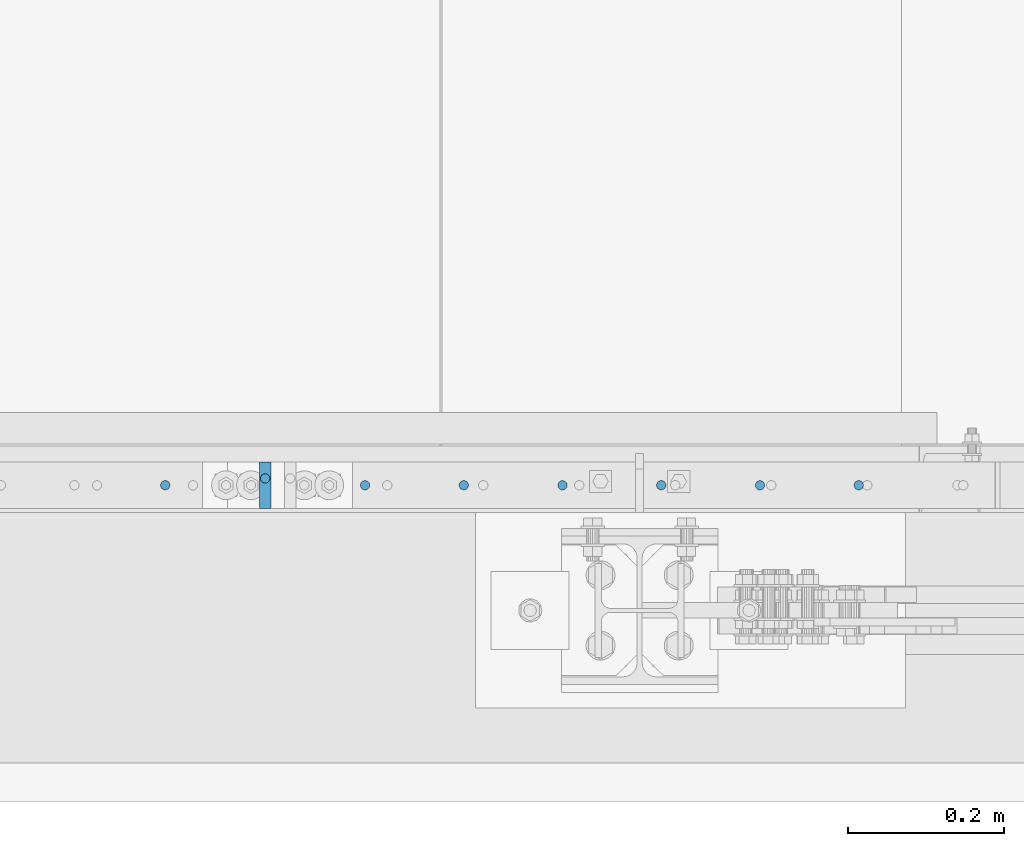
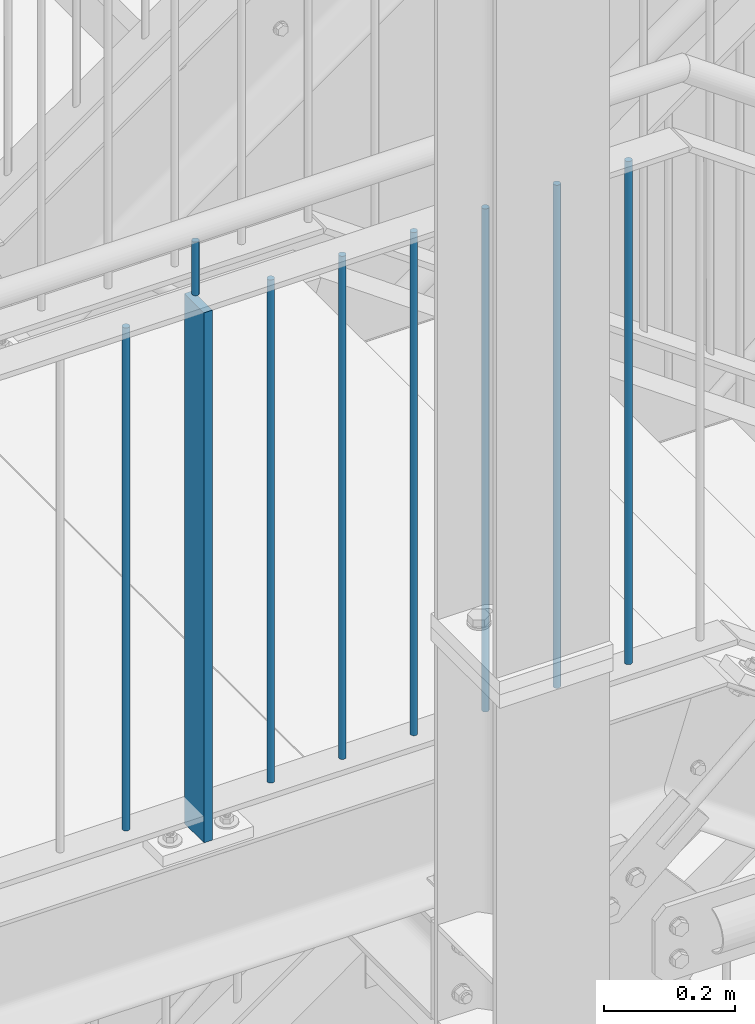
# One storey, part 9 of 825: 9 columns.
"""IFC2X3 building model written with IfcOpenShell, lengths in millimetres."""

from ifc_helpers import new_model, entity, si_unit, converted_unit, frame, origin, origin_with_axes, origin_2d, place, context, project, spatial, rectangle, circle, extrude, clip, halfspace, material, element, save


model = new_model("IFC2X3")

# Units and contexts
model_context = context("Model", 3, precision=1e-09, world=origin_with_axes())
ifc_project = project(units=[si_unit("LENGTHUNIT", "METRE", prefix="MILLI"), si_unit("AREAUNIT", "SQUARE_METRE"), si_unit("VOLUMEUNIT", "CUBIC_METRE"), converted_unit("PLANEANGLEUNIT", "DEGREE", entity("IfcPlaneAngleMeasure", 0.01745329), si_unit("PLANEANGLEUNIT", "RADIAN"), dimensions=[0, 0, 0, 0, 0, 0, 0])], contexts=[model_context])

# Site, building, storey
site_placement = place(None, origin_with_axes())
site = spatial("IfcSite", under=ifc_project, at=site_placement, Name="Cnopf'sche Kinderklinik", CompositionType="ELEMENT")
building_placement = place(site_placement, origin_with_axes())
building = spatial("IfcBuilding", under=site, at=building_placement, Name="Struktur 1", CompositionType="ELEMENT")
storey_placement = place(building_placement, origin_with_axes())
storey = spatial("IfcBuildingStorey", under=building, at=storey_placement, Name="Default Storey", CompositionType="ELEMENT", Elevation=0.0)

# Columns
ifc_material = material(Name="S235JR")
column_1_placement = place(None, frame((4377.865638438, 4526.736971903, 4886.723292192), z_axis=(0.0, 0.0, 1.0), x_axis=(-1.0, 0.0, 0.0)))
element("IfcColumn", 1, at=column_1_placement, inside=storey, material=ifc_material, Name="Railing_Post_Landing#11", ObjectType="Railing_Post_Landing#11", context=model_context, shape_type="Clipping", body=[
    clip(clip(extrude(rectangle(XDim=15.0, YDim=60.0, at=origin_2d()), origin(), (0.0, 0.0, -1.0), 1070.646584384), halfspace(frame((4377.865638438, 4526.736971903, -1019.722292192), z_axis=(0.0, 0.0, 1.0), x_axis=(-1.0, 0.0, 0.0)), True)), halfspace(frame((4377.865638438, 4526.736971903, -30.924292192), z_axis=(0.0, 0.0, -1.0), x_axis=(1.0, 0.0, 0.0)), True)),
])
column_2_placement = place(None, frame((5136.92323654, 4526.736971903, 4869.285281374), z_axis=(0.0, 0.0, 1.0), x_axis=(-1.0, 0.0, 0.0)))
element("IfcColumn", 2, at=column_2_placement, inside=storey, material=ifc_material, Name="Railing_Picket_Landing#71", ObjectType="Railing_Picket_Landing#71", context=model_context, shape_type="Clipping", body=[
    clip(clip(extrude(circle(Radius=6.0, at=origin_2d()), origin(), (0.0, 0.0, -1.0), 965.770562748), halfspace(frame((5136.92323654, 4526.736971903, -13.486281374), z_axis=(0.0, 0.0, -1.0), x_axis=(1.0, 0.0, 0.0)), True)), halfspace(frame((5136.92323654, 4526.736971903, -952.284281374), z_axis=(0.0, 0.0, 1.0), x_axis=(-1.0, 0.0, 0.0)), True)),
])
column_3_placement = place(None, frame((5010.66371692, 4526.736971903, 4869.285281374), z_axis=(0.0, 0.0, 1.0), x_axis=(-1.0, 0.0, 0.0)))
element("IfcColumn", 3, at=column_3_placement, inside=storey, material=ifc_material, Name="Railing_Picket_Landing#72", ObjectType="Railing_Picket_Landing#72", context=model_context, shape_type="Clipping", body=[
    clip(clip(extrude(circle(Radius=6.0, at=origin_2d()), origin(), (0.0, 0.0, -1.0), 965.770562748), halfspace(frame((5010.66371692, 4526.736971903, -13.486281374), z_axis=(0.0, 0.0, -1.0), x_axis=(1.0, 0.0, 0.0)), True)), halfspace(frame((5010.66371692, 4526.736971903, -952.284281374), z_axis=(0.0, 0.0, 1.0), x_axis=(-1.0, 0.0, 0.0)), True)),
])
column_4_placement = place(None, frame((4884.404197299, 4526.736971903, 4869.285281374), z_axis=(0.0, 0.0, 1.0), x_axis=(-1.0, 0.0, 0.0)))
element("IfcColumn", 4, at=column_4_placement, inside=storey, material=ifc_material, Name="Railing_Picket_Landing#73", ObjectType="Railing_Picket_Landing#73", context=model_context, shape_type="Clipping", body=[
    clip(clip(extrude(circle(Radius=6.0, at=origin_2d()), origin(), (0.0, 0.0, -1.0), 965.770562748), halfspace(frame((4884.404197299, 4526.736971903, -13.486281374), z_axis=(0.0, 0.0, -1.0), x_axis=(1.0, 0.0, 0.0)), True)), halfspace(frame((4884.404197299, 4526.736971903, -952.284281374), z_axis=(0.0, 0.0, 1.0), x_axis=(-1.0, 0.0, 0.0)), True)),
])
column_5_placement = place(None, frame((4758.144677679, 4526.736971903, 4869.285281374), z_axis=(0.0, 0.0, 1.0), x_axis=(-1.0, 0.0, 0.0)))
element("IfcColumn", 5, at=column_5_placement, inside=storey, material=ifc_material, Name="Railing_Picket_Landing#74", ObjectType="Railing_Picket_Landing#74", context=model_context, shape_type="Clipping", body=[
    clip(clip(extrude(circle(Radius=6.0, at=origin_2d()), origin(), (0.0, 0.0, -1.0), 965.770562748), halfspace(frame((4758.144677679, 4526.736971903, -13.486281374), z_axis=(0.0, 0.0, -1.0), x_axis=(1.0, 0.0, 0.0)), True)), halfspace(frame((4758.144677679, 4526.736971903, -952.284281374), z_axis=(0.0, 0.0, 1.0), x_axis=(-1.0, 0.0, 0.0)), True)),
])
column_6_placement = place(None, frame((4631.885158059, 4526.736971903, 4869.285281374), z_axis=(0.0, 0.0, 1.0), x_axis=(-1.0, 0.0, 0.0)))
element("IfcColumn", 6, at=column_6_placement, inside=storey, material=ifc_material, Name="Railing_Picket_Landing#75", ObjectType="Railing_Picket_Landing#75", context=model_context, shape_type="Clipping", body=[
    clip(clip(extrude(circle(Radius=6.0, at=origin_2d()), origin(), (0.0, 0.0, -1.0), 965.770562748), halfspace(frame((4631.885158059, 4526.736971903, -13.486281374), z_axis=(0.0, 0.0, -1.0), x_axis=(1.0, 0.0, 0.0)), True)), halfspace(frame((4631.885158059, 4526.736971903, -952.284281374), z_axis=(0.0, 0.0, 1.0), x_axis=(-1.0, 0.0, 0.0)), True)),
])
column_7_placement = place(None, frame((4505.625638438, 4526.736971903, 4869.285281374), z_axis=(0.0, 0.0, 1.0), x_axis=(-1.0, 0.0, 0.0)))
element("IfcColumn", 7, at=column_7_placement, inside=storey, material=ifc_material, Name="Railing_Picket_Landing#76", ObjectType="Railing_Picket_Landing#76", context=model_context, shape_type="Clipping", body=[
    clip(clip(extrude(circle(Radius=6.0, at=origin_2d()), origin(), (0.0, 0.0, -1.0), 965.770562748), halfspace(frame((4505.625638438, 4526.736971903, -13.486281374), z_axis=(0.0, 0.0, -1.0), x_axis=(1.0, 0.0, 0.0)), True)), halfspace(frame((4505.625638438, 4526.736971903, -952.284281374), z_axis=(0.0, 0.0, 1.0), x_axis=(-1.0, 0.0, 0.0)), True)),
])
column_8_placement = place(None, frame((4250.105638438, 4526.736971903, 4869.285281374), z_axis=(0.0, 0.0, 1.0), x_axis=(-1.0, 0.0, 0.0)))
element("IfcColumn", 8, at=column_8_placement, inside=storey, material=ifc_material, Name="Railing_Picket_Landing#77", ObjectType="Railing_Picket_Landing#77", context=model_context, shape_type="Clipping", body=[
    clip(clip(extrude(circle(Radius=6.0, at=origin_2d()), origin(), (0.0, 0.0, -1.0), 965.770562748), halfspace(frame((4250.105638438, 4526.736971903, -13.486281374), z_axis=(0.0, 0.0, -1.0), x_axis=(1.0, 0.0, 0.0)), True)), halfspace(frame((4250.105638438, 4526.736971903, -952.284281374), z_axis=(0.0, 0.0, 1.0), x_axis=(-1.0, 0.0, 0.0)), True)),
])
column_9_placement = place(None, frame((4377.865638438, 4535.536971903, 4974.285281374), z_axis=(0.0, 0.0, 1.0), x_axis=(0.0, 1.0, 0.0)))
element("IfcColumn", 9, at=column_9_placement, inside=storey, material=ifc_material, Name="Bar#11", ObjectType="Bar#11", context=model_context, shape_type="Clipping", body=[
    clip(clip(extrude(circle(Radius=6.0, at=origin_2d()), origin(), (0.0, 0.0, -1.0), 116.970562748), halfspace(frame((-4535.536971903, 4377.865638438, -8.486281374), z_axis=(0.0, 0.0, -1.0), x_axis=(0.0, 1.0, 0.0)), True)), halfspace(frame((-4535.536971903, 4377.865638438, -108.484281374), z_axis=(0.0, 0.0, 1.0), x_axis=(0.0, -1.0, 0.0)), True)),
])

save(model, "model.ifc")
